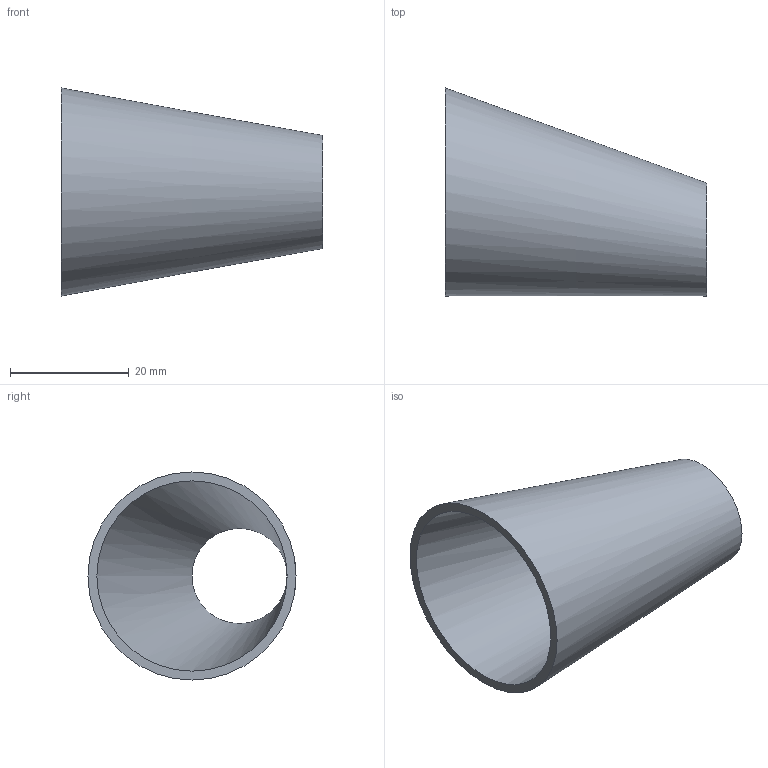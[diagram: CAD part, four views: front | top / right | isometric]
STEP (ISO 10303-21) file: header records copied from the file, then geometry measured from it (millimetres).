
FILE_DESCRIPTION(('FreeCAD Model'),'2;1');
FILE_NAME( '/home/martin/Documents/proyect/accesorios/stp/red-exc_DN32-15.step', '2017-12-31T13:02:26',('Author'),(''), 'Open CASCADE STEP processor 6.8','FreeCAD','Unknown');
FILE_SCHEMA(('AUTOMOTIVE_DESIGN_CC2 { 1 2 10303 214 -1 1 5 4 }'));
Length unit declared in the file: millimetre
Products named in the file (1): red-exc_DN32-15
Bounding box: 44 x 35 x 35 mm (x, y, z)
Volume: 5287.3 mm3; surface area: 7460.9 mm2
Topology: 1 solids, 1 shells, 4 faces, 6 edges, 4 vertices
Faces by surface type: bspline 2, plane 2
Entity records: 247 total; most frequent: CARTESIAN_POINT 87, DIRECTION 26, ORIENTED_EDGE 12, PCURVE 12, DEFINITIONAL_REPRESENTATION 12, CIRCLE 8, LINE 8, VECTOR 8
